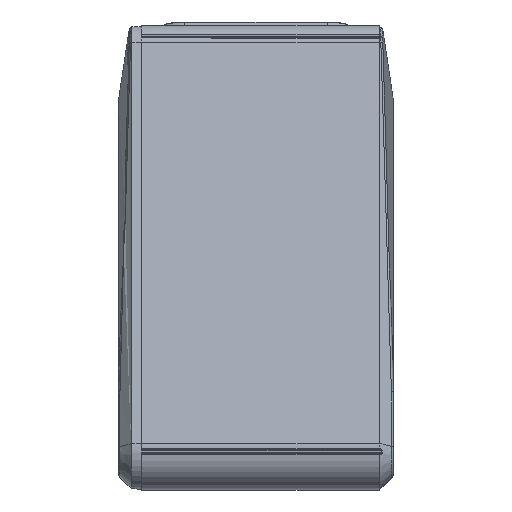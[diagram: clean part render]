
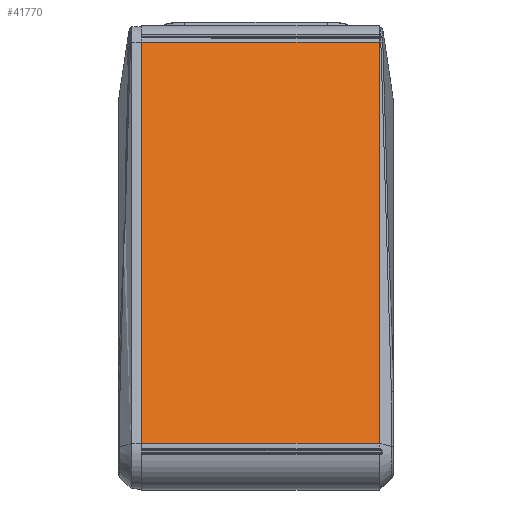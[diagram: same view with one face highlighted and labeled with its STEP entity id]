
A CAD part, left-side view. The second image highlights one B-rep face of the part: STEP entity #41770.
In plain terms, the highlighted planar face has unit normal (-0.961, 0, 0.276).
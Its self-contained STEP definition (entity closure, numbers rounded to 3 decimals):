
#3046=DIRECTION('',(-0.276,0.,-0.961));
#3047=VECTOR('',#3046,91.09);
#3048=CARTESIAN_POINT('',(-141.968,55.,53.766));
#3049=LINE('',#3048,#3047);
#10064=DIRECTION('',(0.,-1.,0.));
#10065=VECTOR('',#10064,51.917);
#10066=CARTESIAN_POINT('',(-167.076,55.,-33.795));
#10067=LINE('',#10066,#10065);
#10105=DIRECTION('',(0.276,0.,0.961));
#10106=VECTOR('',#10105,91.09);
#10107=CARTESIAN_POINT('',(-167.076,3.083,
-33.795));
#10108=LINE('',#10107,#10106);
#10119=DIRECTION('',(0.,1.,0.));
#10120=VECTOR('',#10119,51.917);
#10121=CARTESIAN_POINT('',(-141.968,3.083,
53.766));
#10122=LINE('',#10121,#10120);
#27343=CARTESIAN_POINT('',(-141.968,55.,53.766));
#27344=VERTEX_POINT('',#27343);
#27345=CARTESIAN_POINT('',(-167.076,55.,-33.795));
#27346=VERTEX_POINT('',#27345);
#27534=CARTESIAN_POINT('',(-167.076,3.083,
-33.795));
#27536=VERTEX_POINT('',#27534);
#27543=CARTESIAN_POINT('',(-141.968,3.083,
53.766));
#27544=VERTEX_POINT('',#27543);
#41758=CARTESIAN_POINT('',(-140.59,0.,58.572));
#41759=DIRECTION('',(-0.961,0.,0.276));
#41760=DIRECTION('',(-0.276,0.,-0.961));
#41761=AXIS2_PLACEMENT_3D('',#41758,#41759,#41760);
#41762=PLANE('',#41761);
#41763=ORIENTED_EDGE('',*,*,#41741,.F.);
#41764=ORIENTED_EDGE('',*,*,#41702,.F.);
#41765=ORIENTED_EDGE('',*,*,#34343,.F.);
#41767=ORIENTED_EDGE('',*,*,#41766,.F.);
#41768=EDGE_LOOP('',(#41763,#41764,#41765,#41767));
#41769=FACE_OUTER_BOUND('',#41768,.F.);
#41770=ADVANCED_FACE('',(#41769),#41762,.T.);
#34343=EDGE_CURVE('',#27344,#27346,#3049,.T.);
#41702=EDGE_CURVE('',#27346,#27536,#10067,.T.);
#41741=EDGE_CURVE('',#27536,#27544,#10108,.T.);
#41766=EDGE_CURVE('',#27544,#27344,#10122,.T.);
